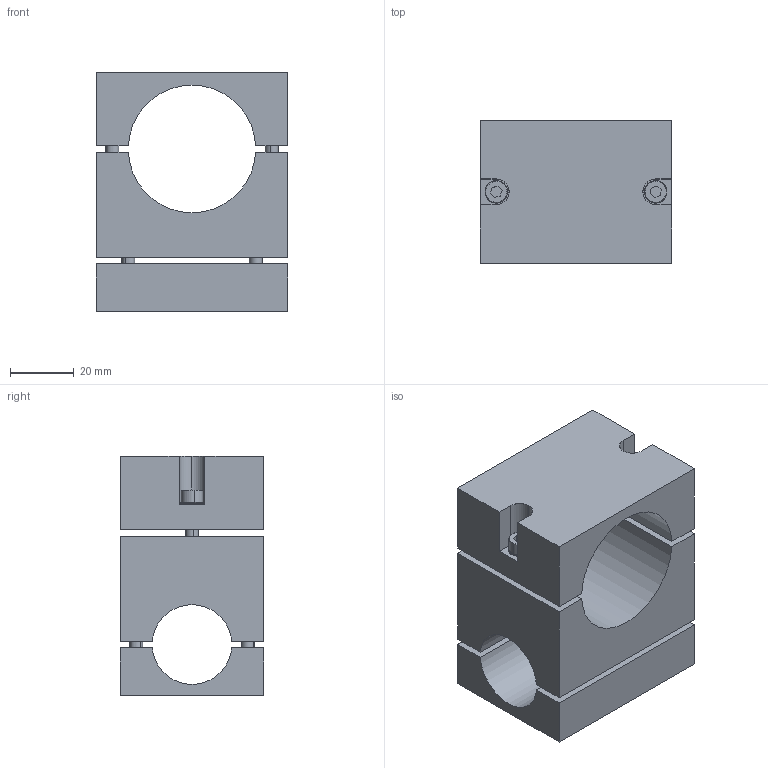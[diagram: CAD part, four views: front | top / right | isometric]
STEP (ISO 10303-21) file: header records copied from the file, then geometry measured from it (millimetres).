
FILE_DESCRIPTION (( 'STEP AP214' ), '1' );
FILE_NAME ('SMBT2-4025T.STEP', '2023-01-04T01:16:24', ( 'Windows User' ), ( 'P R C' ), 'SwSTEP 2.0', 'SolidWorks 2018', '' );
FILE_SCHEMA (( 'AUTOMOTIVE_DESIGN' ));
Length unit declared in the file: millimetre
Products named in the file (4): PTC-M4L18; SMBT2-4025T; SMBT2-4025; PTS-M4
Assembly tree (13 placements, depth 2):
  SMBT2-4025T
    SMBT2-4025
    PTC-M4L18  x6
    PTS-M4  x6
Bounding box: 60 x 45 x 75 mm (x, y, z)
Volume: 109240.8 mm3; surface area: 36852 mm2
Topology: 15 solids, 15 shells, 1210 faces, 3459 edges, 2279 vertices
Faces by surface type: plane 1056, cylinder 87, cone 67
Entity records: 9644 total; most frequent: CARTESIAN_POINT 1704, DIRECTION 1668, ORIENTED_EDGE 1562, EDGE_CURVE 781, AXIS2_PLACEMENT_3D 585, VERTEX_POINT 509, VECTOR 498, LINE 498
